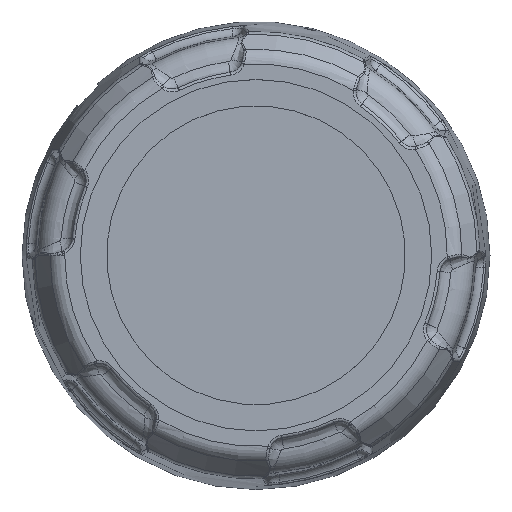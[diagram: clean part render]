
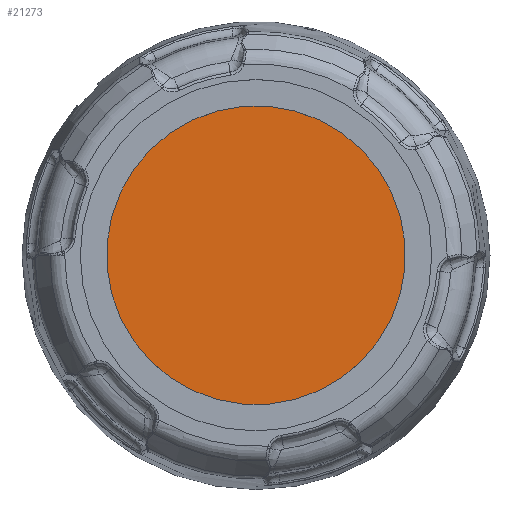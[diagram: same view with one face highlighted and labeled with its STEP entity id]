
A CAD part, top view. The second image highlights one B-rep face of the part: STEP entity #21273.
In plain terms, the highlighted planar face has unit normal (0, 0, 1).
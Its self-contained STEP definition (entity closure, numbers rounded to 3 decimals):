
#8516=CARTESIAN_POINT('',(0.,0.,38.625));
#8517=DIRECTION('',(0.,0.,-1.));
#8518=DIRECTION('',(-0.966,-0.259,0.));
#8519=AXIS2_PLACEMENT_3D('',#8516,#8517,#8518);
#8524=CARTESIAN_POINT('',(0.,0.,38.625));
#8525=DIRECTION('',(0.,0.,-1.));
#8526=DIRECTION('',(0.966,0.259,0.));
#8527=AXIS2_PLACEMENT_3D('',#8524,#8525,#8526);
#10099=CARTESIAN_POINT('',(24.631,6.6,38.625));
#10100=VERTEX_POINT('',#10099);
#10101=CARTESIAN_POINT('',(-24.631,-6.6,38.625));
#10102=VERTEX_POINT('',#10101);
#21264=CARTESIAN_POINT('',(0.,0.,38.625));
#21265=DIRECTION('',(0.,0.,1.));
#21266=DIRECTION('',(0.259,-0.966,0.));
#21267=AXIS2_PLACEMENT_3D('',#21264,#21265,#21266);
#21268=PLANE('',#21267);
#21269=ORIENTED_EDGE('',*,*,#21244,.T.);
#21270=ORIENTED_EDGE('',*,*,#21258,.T.);
#21271=EDGE_LOOP('',(#21269,#21270));
#21272=FACE_OUTER_BOUND('',#21271,.F.);
#8520=CIRCLE('',#8519,25.5);
#8528=CIRCLE('',#8527,25.5);
#21244=EDGE_CURVE('',#10102,#10100,#8520,.T.);
#21258=EDGE_CURVE('',#10100,#10102,#8528,.T.);
#21273=ADVANCED_FACE('',(#21272),#21268,.T.);
